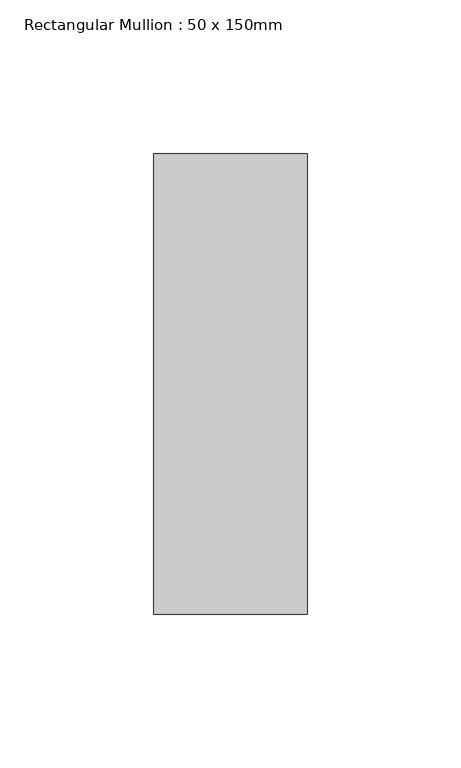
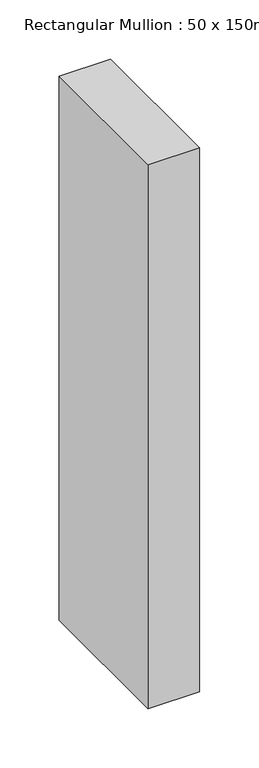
"""IFC4 building model written with IfcOpenShell, lengths in millimetres: member geometry, Rectangular Mullion : 50 x 150mm."""

from ifc_helpers import new_model, si_unit, frame, origin, place, context, project, spatial, polyline, outline, extrude, source, transform, mapped, element, save


def rectangular_mullion_50_x_150mm_d1bc8d35(model_context):
    return source(origin(), model_context, "Body", "SweptSolid", [
        extrude(outline(polyline([(25.0, 75.0), (25.0, -75.0), (-25.0, -75.0), (-25.0, 75.0), (25.0, 75.0)])), frame((0.0, 0.0, -559.6), z_axis=(0.0, 0.0, 1.0), x_axis=(1.0, 0.0, 0.0)), (0.0, 0.0, 1.0), 559.6),
    ])


if __name__ == "__main__":
    model = new_model("IFC4")
    model_context = context("Model", 3, world=origin())
    ifc_project = project(units=[si_unit("LENGTHUNIT", "METRE", prefix="MILLI")], contexts=[model_context])
    site = spatial("IfcSite", under=ifc_project)
    building = spatial("IfcBuilding", under=site)
    placement = place(None, origin())
    rectangular_mullion_50_x_150mm_shape = rectangular_mullion_50_x_150mm_d1bc8d35(model_context)
    element("IfcMember", 1, ObjectType="Rectangular Mullion : 50 x 150mm", at=placement, inside=building, context=model_context, shape_type="MappedRepresentation", body=[
        mapped(rectangular_mullion_50_x_150mm_shape, transform((0.0, 0.0, 0.0), x_axis=(1.0, 0.0, 0.0), y_axis=(0.0, 1.0, 0.0), z_axis=(0.0, 0.0, 1.0))),
    ])
    save(model, "model.ifc")
